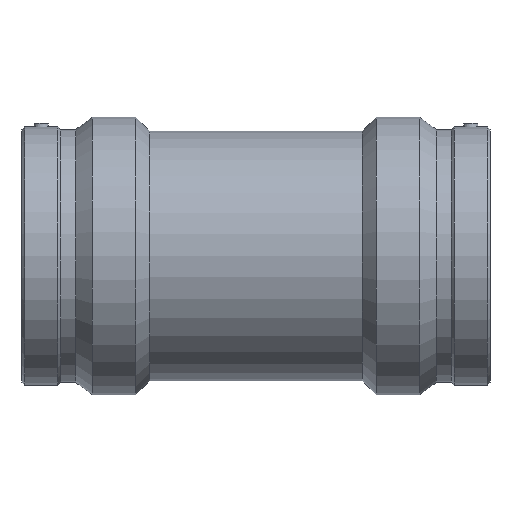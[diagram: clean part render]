
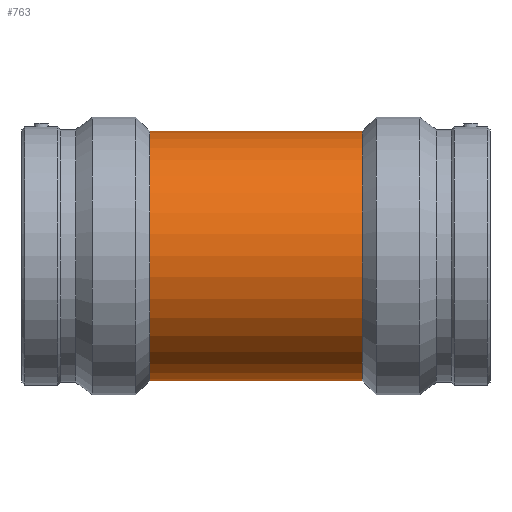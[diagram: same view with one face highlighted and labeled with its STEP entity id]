
A CAD part, top view. The second image highlights one B-rep face of the part: STEP entity #763.
In plain terms, the highlighted cylindrical face has radius 131.85 mm (diameter 263.7 mm), a full revolution.
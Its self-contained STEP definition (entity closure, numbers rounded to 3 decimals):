
#31=B_SPLINE_CURVE_WITH_KNOTS('',3,(#1275,#1276,#1277,#1278,#1279,#1280,
#1281,#1282,#1283,#1284,#1285,#1286,#1287,#1288,#1289,#1290,#1291,#1292),
 .UNSPECIFIED.,.F.,.F.,(4,2,2,2,2,2,2,2,4),(0.,1.648,3.295,
4.943,6.59,8.224,9.857,11.49,
13.124),.UNSPECIFIED.);
#32=B_SPLINE_CURVE_WITH_KNOTS('',3,(#1293,#1294,#1295,#1296,#1297,#1298,
#1299,#1300,#1301,#1302,#1303,#1304,#1305,#1306,#1307,#1308,#1309,#1310,
#1311,#1312,#1313,#1314,#1315,#1316,#1317,#1318,#1319,#1320,#1321,#1322,
#1323,#1324,#1325,#1326,#1327,#1328,#1329,#1330,#1331,#1332,#1333,#1334,
#1335,#1336,#1337,#1338,#1339,#1340,#1341,#1342),.UNSPECIFIED.,.F.,.F.,
(4,2,2,2,2,2,2,2,2,2,2,2,2,2,2,2,2,2,2,2,2,2,2,2,4),(13.124,14.757,
16.39,18.023,19.657,21.304,22.952,
24.599,26.247,27.895,29.542,31.19,
32.837,34.471,36.104,37.737,39.371,
41.004,42.637,44.27,45.904,47.551,
49.199,50.846,52.494),.UNSPECIFIED.);
#45=FACE_BOUND('',#142,.T.);
#88=FACE_OUTER_BOUND('',#141,.T.);
#141=EDGE_LOOP('',(#599,#600,#601,#602,#603,#604));
#142=EDGE_LOOP('',(#605,#606));
#183=LINE('',#1515,#216);
#216=VECTOR('',#1059,131.85);
#264=CIRCLE('',#859,131.85);
#265=CIRCLE('',#860,131.85);
#266=CIRCLE('',#862,131.85);
#267=CIRCLE('',#863,131.85);
#311=VERTEX_POINT('',#1273);
#312=VERTEX_POINT('',#1274);
#343=VERTEX_POINT('',#1505);
#344=VERTEX_POINT('',#1506);
#345=VERTEX_POINT('',#1511);
#346=VERTEX_POINT('',#1512);
#392=EDGE_CURVE('',#311,#312,#31,.T.);
#393=EDGE_CURVE('',#312,#311,#32,.T.);
#437=EDGE_CURVE('',#343,#344,#264,.T.);
#438=EDGE_CURVE('',#344,#343,#265,.T.);
#440=EDGE_CURVE('',#345,#346,#266,.T.);
#441=EDGE_CURVE('',#346,#345,#267,.T.);
#442=EDGE_CURVE('',#346,#344,#183,.T.);
#599=ORIENTED_EDGE('',*,*,#440,.F.);
#600=ORIENTED_EDGE('',*,*,#441,.F.);
#601=ORIENTED_EDGE('',*,*,#442,.T.);
#602=ORIENTED_EDGE('',*,*,#438,.T.);
#603=ORIENTED_EDGE('',*,*,#437,.T.);
#604=ORIENTED_EDGE('',*,*,#442,.F.);
#605=ORIENTED_EDGE('',*,*,#392,.T.);
#606=ORIENTED_EDGE('',*,*,#393,.T.);
#729=CYLINDRICAL_SURFACE('',#861,131.85);
#763=ADVANCED_FACE('',(#88,#45),#729,.T.);
#859=AXIS2_PLACEMENT_3D('',#1507,#1048,#1049);
#860=AXIS2_PLACEMENT_3D('',#1508,#1050,#1051);
#861=AXIS2_PLACEMENT_3D('',#1510,#1053,#1054);
#862=AXIS2_PLACEMENT_3D('',#1513,#1055,#1056);
#863=AXIS2_PLACEMENT_3D('',#1514,#1057,#1058);
#1048=DIRECTION('center_axis',(1.,0.,0.));
#1049=DIRECTION('ref_axis',(0.,0.,-1.));
#1050=DIRECTION('center_axis',(1.,0.,0.));
#1051=DIRECTION('ref_axis',(0.,0.,-1.));
#1053=DIRECTION('center_axis',(1.,0.,0.));
#1054=DIRECTION('ref_axis',(0.,1.,0.));
#1055=DIRECTION('center_axis',(1.,0.,0.));
#1056=DIRECTION('ref_axis',(0.,0.,-1.));
#1057=DIRECTION('center_axis',(1.,0.,0.));
#1058=DIRECTION('ref_axis',(0.,0.,-1.));
#1059=DIRECTION('',(-1.,0.,0.));
#1273=CARTESIAN_POINT('',(0.,-84.,-101.629));
#1274=CARTESIAN_POINT('',(84.,0.,-131.85));
#1275=CARTESIAN_POINT('Ctrl Pts',(0.,-84.,-101.629));
#1276=CARTESIAN_POINT('Ctrl Pts',(5.492,-84.,-101.629));
#1277=CARTESIAN_POINT('Ctrl Pts',(11.085,-83.454,-102.088));
#1278=CARTESIAN_POINT('Ctrl Pts',(22.073,-81.242,-103.857));
#1279=CARTESIAN_POINT('Ctrl Pts',(27.468,-79.577,-105.162));
#1280=CARTESIAN_POINT('Ctrl Pts',(37.732,-75.255,-108.297));
#1281=CARTESIAN_POINT('Ctrl Pts',(42.61,-72.594,-110.124));
#1282=CARTESIAN_POINT('Ctrl Pts',(51.614,-66.495,-113.911));
#1283=CARTESIAN_POINT('Ctrl Pts',(55.739,-63.055,-115.868));
#1284=CARTESIAN_POINT('Ctrl Pts',(63.023,-55.771,-119.543));
#1285=CARTESIAN_POINT('Ctrl Pts',(66.457,-51.663,-121.403));
#1286=CARTESIAN_POINT('Ctrl Pts',(72.568,-42.656,-124.853));
#1287=CARTESIAN_POINT('Ctrl Pts',(75.245,-37.756,-126.44));
#1288=CARTESIAN_POINT('Ctrl Pts',(79.586,-27.447,-129.071));
#1289=CARTESIAN_POINT('Ctrl Pts',(81.255,-22.026,-130.115));
#1290=CARTESIAN_POINT('Ctrl Pts',(83.462,-11.024,-131.505));
#1291=CARTESIAN_POINT('Ctrl Pts',(84.,-5.444,-131.85));
#1292=CARTESIAN_POINT('Ctrl Pts',(84.,0.,-131.85));
#1293=CARTESIAN_POINT('Ctrl Pts',(84.,0.,-131.85));
#1294=CARTESIAN_POINT('Ctrl Pts',(84.,5.444,-131.85));
#1295=CARTESIAN_POINT('Ctrl Pts',(83.462,11.024,-131.505));
#1296=CARTESIAN_POINT('Ctrl Pts',(81.255,22.026,-130.115));
#1297=CARTESIAN_POINT('Ctrl Pts',(79.586,27.447,-129.071));
#1298=CARTESIAN_POINT('Ctrl Pts',(75.245,37.756,-126.44));
#1299=CARTESIAN_POINT('Ctrl Pts',(72.568,42.656,-124.853));
#1300=CARTESIAN_POINT('Ctrl Pts',(66.457,51.663,-121.403));
#1301=CARTESIAN_POINT('Ctrl Pts',(63.023,55.771,-119.543));
#1302=CARTESIAN_POINT('Ctrl Pts',(55.739,63.055,-115.868));
#1303=CARTESIAN_POINT('Ctrl Pts',(51.614,66.495,-113.911));
#1304=CARTESIAN_POINT('Ctrl Pts',(42.61,72.594,-110.124));
#1305=CARTESIAN_POINT('Ctrl Pts',(37.732,75.255,-108.297));
#1306=CARTESIAN_POINT('Ctrl Pts',(27.468,79.577,-105.162));
#1307=CARTESIAN_POINT('Ctrl Pts',(22.073,81.242,-103.857));
#1308=CARTESIAN_POINT('Ctrl Pts',(11.085,83.454,-102.088));
#1309=CARTESIAN_POINT('Ctrl Pts',(5.492,84.,-101.629));
#1310=CARTESIAN_POINT('Ctrl Pts',(-5.492,84.,-101.629));
#1311=CARTESIAN_POINT('Ctrl Pts',(-11.085,83.454,-102.088));
#1312=CARTESIAN_POINT('Ctrl Pts',(-22.073,81.242,-103.857));
#1313=CARTESIAN_POINT('Ctrl Pts',(-27.468,79.577,-105.162));
#1314=CARTESIAN_POINT('Ctrl Pts',(-37.732,75.255,-108.297));
#1315=CARTESIAN_POINT('Ctrl Pts',(-42.61,72.594,-110.124));
#1316=CARTESIAN_POINT('Ctrl Pts',(-51.614,66.495,-113.911));
#1317=CARTESIAN_POINT('Ctrl Pts',(-55.739,63.055,-115.868));
#1318=CARTESIAN_POINT('Ctrl Pts',(-63.023,55.771,-119.543));
#1319=CARTESIAN_POINT('Ctrl Pts',(-66.457,51.663,-121.403));
#1320=CARTESIAN_POINT('Ctrl Pts',(-72.568,42.656,-124.853));
#1321=CARTESIAN_POINT('Ctrl Pts',(-75.245,37.756,-126.44));
#1322=CARTESIAN_POINT('Ctrl Pts',(-79.586,27.447,-129.071));
#1323=CARTESIAN_POINT('Ctrl Pts',(-81.255,22.026,-130.115));
#1324=CARTESIAN_POINT('Ctrl Pts',(-83.462,11.024,-131.505));
#1325=CARTESIAN_POINT('Ctrl Pts',(-84.,5.444,-131.85));
#1326=CARTESIAN_POINT('Ctrl Pts',(-84.,-5.444,-131.85));
#1327=CARTESIAN_POINT('Ctrl Pts',(-83.462,-11.024,-131.505));
#1328=CARTESIAN_POINT('Ctrl Pts',(-81.255,-22.026,-130.115));
#1329=CARTESIAN_POINT('Ctrl Pts',(-79.586,-27.447,-129.071));
#1330=CARTESIAN_POINT('Ctrl Pts',(-75.245,-37.756,-126.44));
#1331=CARTESIAN_POINT('Ctrl Pts',(-72.568,-42.656,-124.853));
#1332=CARTESIAN_POINT('Ctrl Pts',(-66.457,-51.663,-121.403));
#1333=CARTESIAN_POINT('Ctrl Pts',(-63.023,-55.771,-119.543));
#1334=CARTESIAN_POINT('Ctrl Pts',(-55.739,-63.055,-115.868));
#1335=CARTESIAN_POINT('Ctrl Pts',(-51.614,-66.495,-113.911));
#1336=CARTESIAN_POINT('Ctrl Pts',(-42.61,-72.594,-110.124));
#1337=CARTESIAN_POINT('Ctrl Pts',(-37.732,-75.255,-108.297));
#1338=CARTESIAN_POINT('Ctrl Pts',(-27.468,-79.577,-105.162));
#1339=CARTESIAN_POINT('Ctrl Pts',(-22.073,-81.242,-103.857));
#1340=CARTESIAN_POINT('Ctrl Pts',(-11.085,-83.454,-102.088));
#1341=CARTESIAN_POINT('Ctrl Pts',(-5.492,-84.,-101.629));
#1342=CARTESIAN_POINT('Ctrl Pts',(0.,-84.,-101.629));
#1505=CARTESIAN_POINT('',(-112.385,131.85,0.));
#1506=CARTESIAN_POINT('',(-112.385,-131.85,0.));
#1507=CARTESIAN_POINT('Origin',(-112.385,0.,0.));
#1508=CARTESIAN_POINT('Origin',(-112.385,0.,0.));
#1510=CARTESIAN_POINT('Origin',(0.,0.,0.));
#1511=CARTESIAN_POINT('',(112.385,131.85,0.));
#1512=CARTESIAN_POINT('',(112.385,-131.85,0.));
#1513=CARTESIAN_POINT('Origin',(112.385,0.,0.));
#1514=CARTESIAN_POINT('Origin',(112.385,0.,0.));
#1515=CARTESIAN_POINT('',(0.,-131.85,0.));
